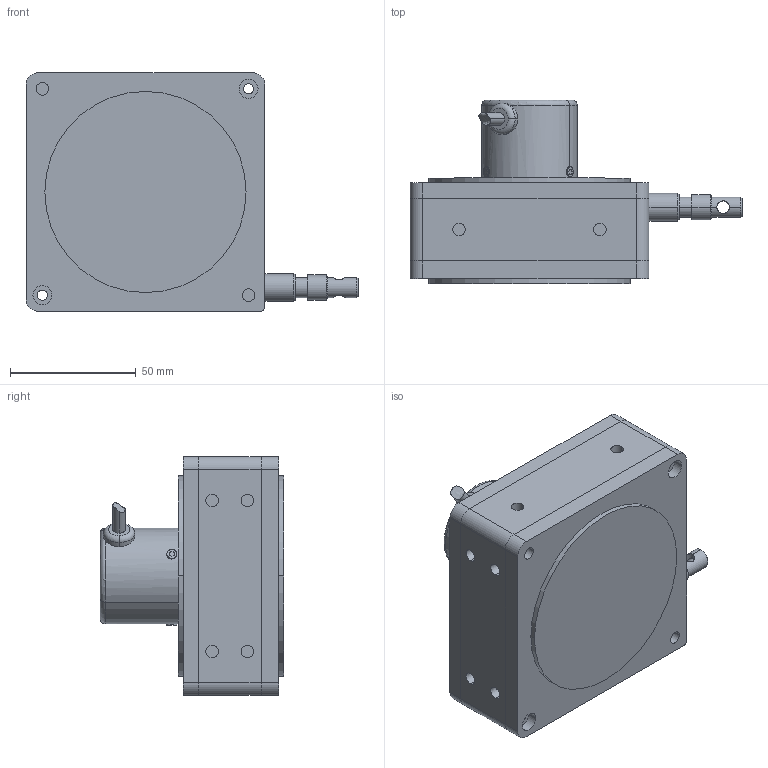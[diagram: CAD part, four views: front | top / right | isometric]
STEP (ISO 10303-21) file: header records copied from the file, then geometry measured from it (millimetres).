
FILE_DESCRIPTION(/* description */ (''),/* implementation_level */ '2;1');
FILE_NAME(/* name */ 'IP54 BRT38 4&5m-数字量.stp',/* time_stamp */ '2022-09-21T11:20:04+08:00',/* author */ (''),/* organization */ (''),/* preprocessor_version */ 'ST-DEVELOPER v16.7',/* originating_system */ 'SIEMENS PLM Software NX 12.0',/* authorisation */ '');
FILE_SCHEMA (('AUTOMOTIVE_DESIGN { 1 0 10303 214 3 1 1 1 }'));
Length unit declared in the file: millimetre
Products named in the file (1): Leno66348C51ji6t
Bounding box: 132 x 73 x 95 mm (x, y, z)
Volume: 327301.8 mm3; surface area: 89149.4 mm2
Topology: 6 solids, 8 shells, 233 faces, 538 edges, 344 vertices
Faces by surface type: cylinder 123, plane 65, bspline 19, cone 16, torus 8, extrusion 2
Full cylindrical faces by diameter (mm): 40 x1, 72 x1, 80 x1
Entity records: 8920 total; most frequent: CARTESIAN_POINT 3493, DIRECTION 1146, ORIENTED_EDGE 1054, EDGE_CURVE 527, AXIS2_PLACEMENT_3D 472, VERTEX_POINT 344, EDGE_LOOP 301, CIRCLE 259
